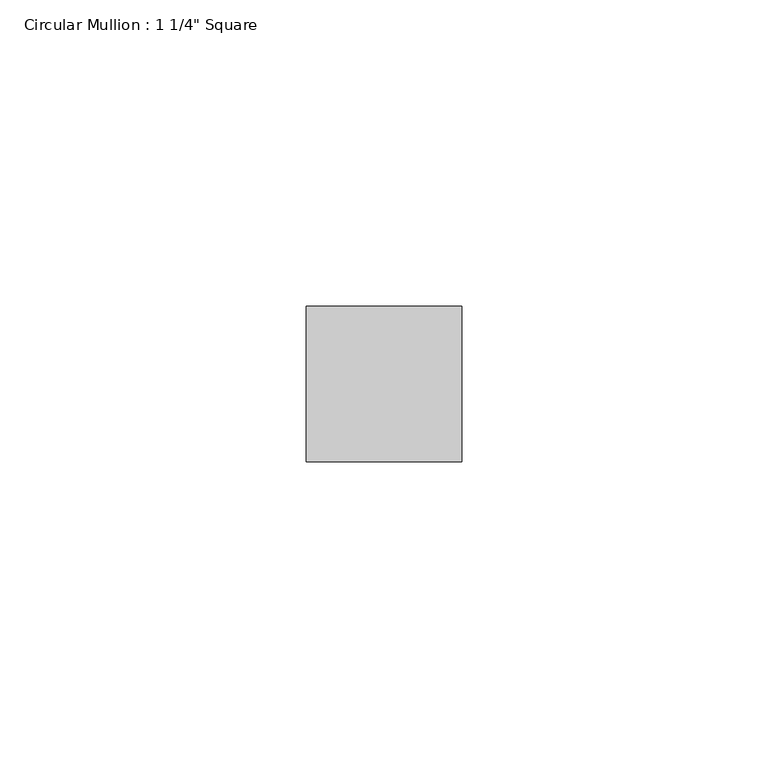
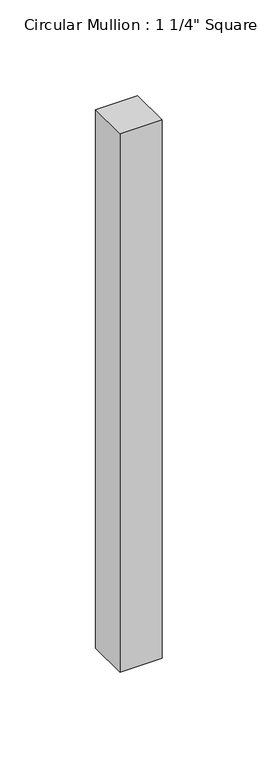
"""IFC4 building model written with IfcOpenShell, lengths in millimetres: member geometry."""

import ifcopenshell
import ifcopenshell.guid

model = None  # the IFC model being written
_history = None  # IfcOwnerHistory: only IFC2X3 demands one
_inside = {}  # id of a spatial element -> (the spatial element, [elements in it])
_under = {}  # id of a project, library or spatial element -> (it, [spatial elements below it])
_declared = {}  # id of a project -> (the project, [libraries it declares])
_typed = {}  # id of a type object -> (the type object, [elements of that type])
_made_of = {}  # id of a material, layer set ... -> (it, [elements and type objects made of it])


def new_model(schema):
    """Start an empty IFC model of exactly this schema.

    Asked for "IFC4X3", IfcOpenShell would pick the latest addendum, in which some entities
    have other attributes; the version numbers below select the first issue.
    IFC2X3 requires an IfcOwnerHistory on every rooted entity: one is made here for all.
    """
    global model, _history
    if schema == "IFC4X3":
        model = ifcopenshell.file(schema_version=(4, 3, 0, 0))
    else:
        model = ifcopenshell.file(schema=schema)
    _inside.clear()
    _under.clear()
    _declared.clear()
    _typed.clear()
    _made_of.clear()
    _history = None
    if model.schema == "IFC2X3":
        org = make("IfcOrganization", Name="unknown")
        user = make(
            "IfcPersonAndOrganization",
            ThePerson=make("IfcPerson", FamilyName="unknown"),
            TheOrganization=org,
        )
        app = make(
            "IfcApplication",
            ApplicationDeveloper=org,
            Version="unknown",
            ApplicationFullName="unknown",
            ApplicationIdentifier="unknown",
        )
        _history = make(
            "IfcOwnerHistory",
            OwningUser=user,
            OwningApplication=app,
            ChangeAction="ADDED",
            CreationDate=0,
        )
    return model


def make(cls, **values):
    """One entity of the class cls with the attributes given. An attribute that is None is left unset."""
    return model.create_entity(
        cls, **{name: value for name, value in values.items() if value is not None}
    )


def rooted(cls, **values):
    """An entity with a GlobalId (a new one), such as an element, a storey or a relation."""
    return make(cls, GlobalId=ifcopenshell.guid.new(), OwnerHistory=_history, **values)


def si_unit(unit_type, name, prefix=None):
    """IfcSIUnit, for example si_unit("LENGTHUNIT", "METRE", prefix="MILLI")."""
    return make("IfcSIUnit", UnitType=unit_type, Prefix=prefix, Name=name)


def assignment(units):
    """IfcUnitAssignment: the units of a project."""
    return None if units is None else make("IfcUnitAssignment", Units=units)


def point(xyz):
    """IfcCartesianPoint."""
    return None if xyz is None else make("IfcCartesianPoint", Coordinates=xyz)


def direction(xyz):
    """IfcDirection."""
    return None if xyz is None else make("IfcDirection", DirectionRatios=xyz)


def frame(location, z_axis=None, x_axis=None):
    """IfcAxis2Placement3D, a coordinate frame: its origin and axes. An axis left out is left unset."""
    return make(
        "IfcAxis2Placement3D",
        Location=point(location),
        Axis=direction(z_axis),
        RefDirection=direction(x_axis),
    )


def origin():
    """The frame at (0, 0, 0) with its axes left unset."""
    return frame((0.0, 0.0, 0.0))


def place(relative_to, where):
    """IfcLocalPlacement: puts the frame where relative to a parent placement (None: the world)."""
    return make(
        "IfcLocalPlacement", PlacementRelTo=relative_to, RelativePlacement=where
    )


def context(
    kind, dimensions, precision=None, world=None, true_north=None, identifier=None
):
    """IfcGeometricRepresentationContext, for example the 3D "Model" context."""
    return make(
        "IfcGeometricRepresentationContext",
        ContextIdentifier=identifier,
        ContextType=kind,
        CoordinateSpaceDimension=dimensions,
        Precision=precision,
        WorldCoordinateSystem=world,
        TrueNorth=true_north,
    )


def project(units=None, contexts=None):
    """IfcProject with its units and contexts."""
    return rooted(
        "IfcProject",
        Name="project",
        RepresentationContexts=contexts,
        UnitsInContext=assignment(units),
    )


def spatial(cls, under=None, at=None, **own):
    """A site, building, storey or space (cls), placed at a placement, below another one or the project."""
    s = rooted(cls, ObjectPlacement=at, **own)
    if under is not None:
        _under.setdefault(under.id(), (under, []))[1].append(s)
    return s


def polyline(points):
    """IfcPolyline through the points."""
    return make("IfcPolyline", Points=[point(p) for p in points])


def outline(outer, holes=None, kind="AREA"):
    """IfcArbitraryClosedProfileDef: a profile drawn as a closed curve; with holes, ...WithVoids."""
    if holes is None:
        return make("IfcArbitraryClosedProfileDef", ProfileType=kind, OuterCurve=outer)
    return make(
        "IfcArbitraryProfileDefWithVoids",
        ProfileType=kind,
        OuterCurve=outer,
        InnerCurves=holes,
    )


def extrude(swept, where, along, depth):
    """IfcExtrudedAreaSolid: the profile swept, set in the frame where, extruded along a direction by depth."""
    return make(
        "IfcExtrudedAreaSolid",
        SweptArea=swept,
        Position=where,
        ExtrudedDirection=direction(along),
        Depth=depth,
    )


def shape(context_of_items, identifier, shape_type, items):
    """IfcShapeRepresentation: the items that make up one representation, for example the "Body"."""
    return make(
        "IfcShapeRepresentation",
        ContextOfItems=context_of_items,
        RepresentationIdentifier=identifier,
        RepresentationType=shape_type,
        Items=items,
    )


def source(mapping_origin, context_of_items, identifier, shape_type, items):
    """IfcRepresentationMap: a shape defined once, which mapped items show again and again."""
    return make(
        "IfcRepresentationMap",
        MappingOrigin=mapping_origin,
        MappedRepresentation=shape(context_of_items, identifier, shape_type, items),
    )


def transform(
    local_origin,
    x_axis=None,
    y_axis=None,
    z_axis=None,
    scale=None,
    scale2=None,
    scale3=None,
    uniform=True,
):
    """IfcCartesianTransformationOperator3D, or its non-uniform kind. x_axis, y_axis, z_axis: its Axis1, 2, 3."""
    if uniform:
        return make(
            "IfcCartesianTransformationOperator3D",
            Axis1=direction(x_axis),
            Axis2=direction(y_axis),
            LocalOrigin=point(local_origin),
            Scale=scale,
            Axis3=direction(z_axis),
        )
    return make(
        "IfcCartesianTransformationOperator3DnonUniform",
        Axis1=direction(x_axis),
        Axis2=direction(y_axis),
        LocalOrigin=point(local_origin),
        Scale=scale,
        Axis3=direction(z_axis),
        Scale2=scale2,
        Scale3=scale3,
    )


def mapped(mapping_source, mapping_target):
    """IfcMappedItem: shows the shape of a source again, moved by a transform."""
    return make(
        "IfcMappedItem", MappingSource=mapping_source, MappingTarget=mapping_target
    )


def made_of(thing, what):
    """Note that an element or type object is made of a material, layer set ...; save() writes the relation."""
    if what is not None:
        _made_of.setdefault(what.id(), (what, []))[1].append(thing)
    return thing


def element(
    cls,
    number,
    at=None,
    inside=None,
    cuts=None,
    type_object=None,
    material=None,
    context=None,
    identifier="Body",
    shape_type=None,
    held_by="IfcProductDefinitionShape",
    body=None,
    shapes=None,
    **own,
):
    """One element of the class cls, such as IfcWall. Its Tag is "e" and its number.

    at: its placement. inside: the storey or other place that contains it. cuts: it is an
    opening in that element (IfcRelVoidsElement). A single representation is given by context,
    identifier, shape_type and body (its items); several are given by shapes. held_by: the class
    of the entity that holds the representations. save() writes the other relations.
    """
    e = rooted(cls, Tag="e%d" % number, ObjectPlacement=at, **own)
    if body is not None:
        shapes = [shape(context, identifier, shape_type, body)]
    if shapes is not None:
        e.Representation = make(held_by, Representations=shapes)
    if inside is not None:
        _inside.setdefault(inside.id(), (inside, []))[1].append(e)
    if cuts is not None:
        rooted(
            "IfcRelVoidsElement", RelatingBuildingElement=cuts, RelatedOpeningElement=e
        )
    if type_object is not None:
        _typed.setdefault(type_object.id(), (type_object, []))[1].append(e)
    return made_of(e, material)


def aggregate(whole, parts):
    """IfcRelAggregates: a whole, such as a stair, and the parts it consists of."""
    return rooted("IfcRelAggregates", RelatingObject=whole, RelatedObjects=parts)


def save(model, path):
    """Write the relations noted so far, then the file.

    IfcRelAggregates (storeys below a building ...), IfcRelContainedInSpatialStructure (elements
    in a storey), IfcRelDefinesByType, IfcRelAssociatesMaterial and IfcRelDeclares: one each for
    every whole, place, type object, material and project.
    """
    for whole, parts in _under.values():
        aggregate(whole, parts)
    for where, things in _inside.values():
        rooted(
            "IfcRelContainedInSpatialStructure",
            RelatedElements=things,
            RelatingStructure=where,
        )
    for kind, things in _typed.values():
        rooted("IfcRelDefinesByType", RelatedObjects=things, RelatingType=kind)
    for what, things in _made_of.values():
        rooted("IfcRelAssociatesMaterial", RelatedObjects=things, RelatingMaterial=what)
    for by, libraries in _declared.values():
        rooted("IfcRelDeclares", RelatingContext=by, RelatedDefinitions=libraries)
    model.write(path)


def member_0f6da5c5(model_context):
    return source(origin(), model_context, "Body", "SweptSolid", [
        extrude(outline(polyline([(0.0, 12.7), (0.0, -12.7), (-25.4, -12.7), (-25.4, 12.7), (0.0, 12.7)])), frame((0.0, 0.0, -342.9), z_axis=(0.0, 0.0, 1.0), x_axis=(1.0, 0.0, 0.0)), (0.0, 0.0, 1.0), 342.9),
    ])


if __name__ == "__main__":
    model = new_model("IFC4")
    model_context = context("Model", 3, world=origin())
    ifc_project = project(units=[si_unit("LENGTHUNIT", "METRE", prefix="MILLI")], contexts=[model_context])
    site = spatial("IfcSite", under=ifc_project)
    building = spatial("IfcBuilding", under=site)
    placement = place(None, origin())
    member_shape = member_0f6da5c5(model_context)
    element("IfcMember", 1, ObjectType="Circular Mullion : 1 1/4\" Square", at=placement, inside=building, context=model_context, shape_type="MappedRepresentation", body=[
        mapped(member_shape, transform((0.0, 0.0, 0.0), x_axis=(1.0, 0.0, 0.0), y_axis=(0.0, 1.0, 0.0), z_axis=(0.0, 0.0, 1.0))),
    ])
    save(model, "model.ifc")
